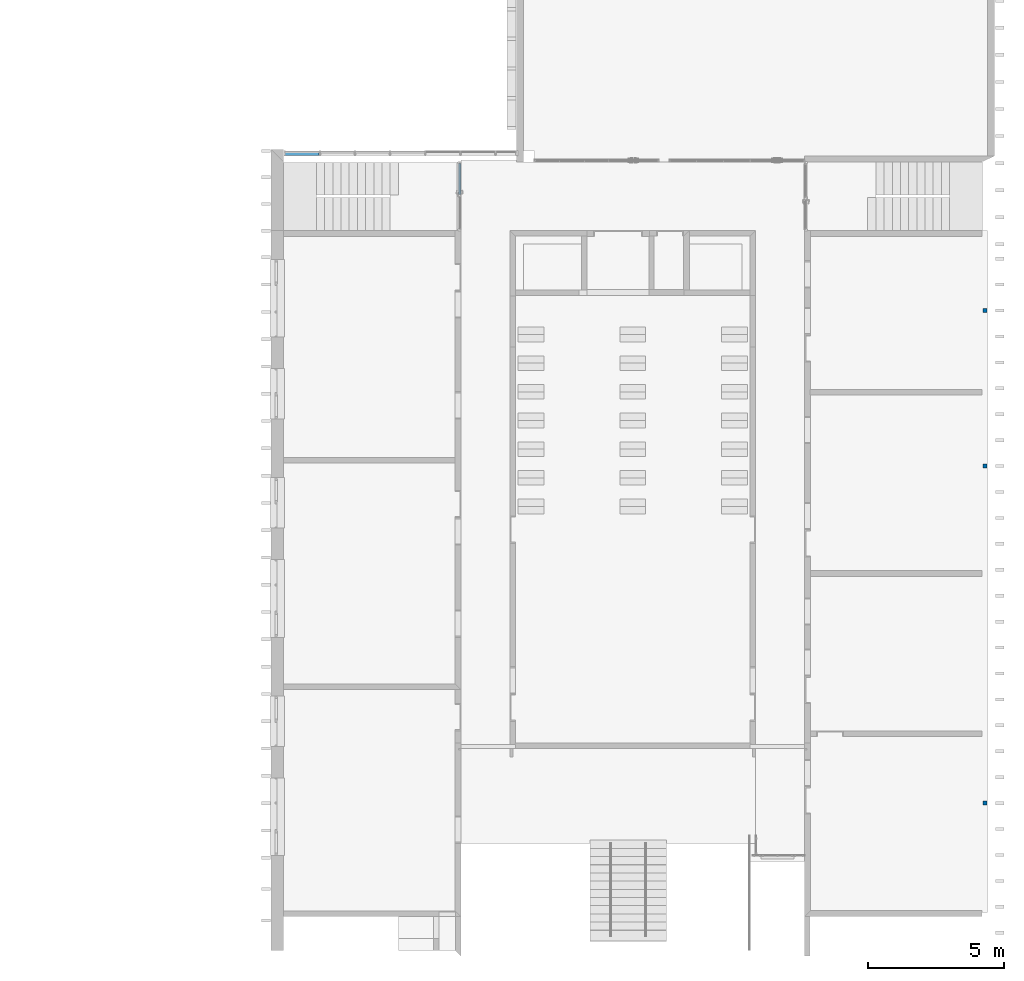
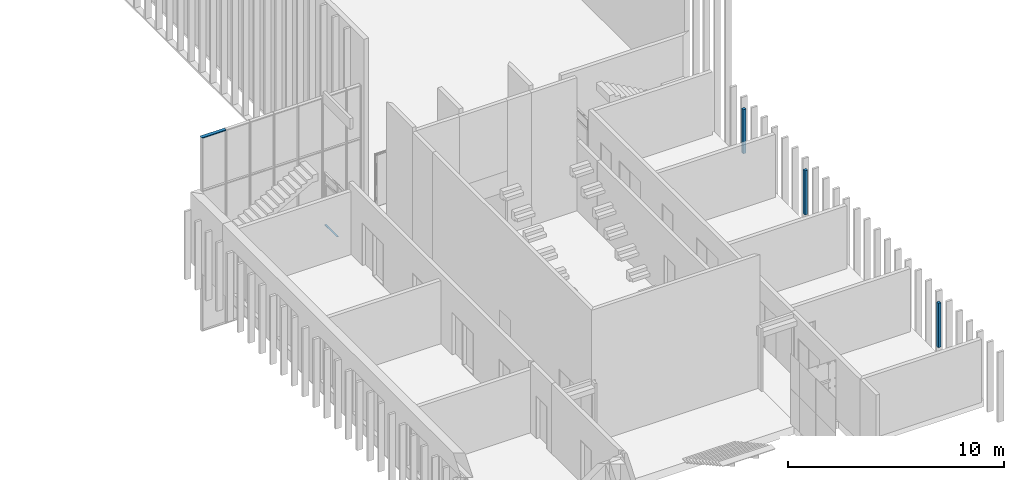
# One storey, part 2 of 62: 3 columns, 2 members, 2 elements without a shape of their own.
"""IFC2X3 building model written with IfcOpenShell, lengths in millimetres."""

from ifc_helpers import new_model, entity, si_unit, converted_unit, derived_unit, money_unit, direction, frame, origin_with_axes, origin_2d_with_axis, place, context, subcontext, project, spatial, polyline, rectangle, outline, extrude, clip, halfspace, material, type_object, element, aggregate, save


model = new_model("IFC2X3")

# Units and contexts
model_context = context("Model", 3, precision=0.01, world=origin_with_axes(), true_north=direction((0.0, 1.0)))
body_context = subcontext(model_context, "Body", "Model", "MODEL_VIEW")
ifc_project = project(units=[si_unit("LENGTHUNIT", "METRE", prefix="MILLI"), si_unit("AREAUNIT", "SQUARE_METRE"), si_unit("VOLUMEUNIT", "CUBIC_METRE"), converted_unit("PLANEANGLEUNIT", "DEGREE", entity("IfcPlaneAngleMeasure", 0.0174532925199), si_unit("PLANEANGLEUNIT", "RADIAN"), dimensions=[0, 0, 0, 0, 0, 0, 0]), si_unit("SOLIDANGLEUNIT", "STERADIAN"), money_unit("EUR"), converted_unit("TIMEUNIT", "Year", entity("IfcTimeMeasure", 31556926.0), si_unit("TIMEUNIT", "SECOND"), dimensions=[0, 0, 1, 0, 0, 0, 0]), si_unit("MASSUNIT", "GRAM", prefix="KILO"), si_unit("THERMODYNAMICTEMPERATUREUNIT", "DEGREE_CELSIUS"), si_unit("LUMINOUSINTENSITYUNIT", "LUMEN"), si_unit("ENERGYUNIT", "JOULE", prefix="MEGA"), derived_unit("THERMALCONDUCTANCEUNIT", [(si_unit("POWERUNIT", "WATT"), 1), (si_unit("LENGTHUNIT", "METRE"), -1), (si_unit("THERMODYNAMICTEMPERATUREUNIT", "KELVIN"), -1)]), derived_unit("SPECIFICHEATCAPACITYUNIT", [(si_unit("ENERGYUNIT", "JOULE"), 1), (si_unit("MASSUNIT", "GRAM", prefix="KILO"), -1), (si_unit("THERMODYNAMICTEMPERATUREUNIT", "KELVIN"), -1)]), derived_unit("MASSDENSITYUNIT", [(si_unit("MASSUNIT", "GRAM", prefix="KILO"), 1), (si_unit("VOLUMEUNIT", "CUBIC_METRE"), -1)])], contexts=[model_context])

# Site, building, storey
site_placement = place(None, origin_with_axes())
site = spatial("IfcSite", under=ifc_project, at=site_placement, Name="Puškini 31, Narva", CompositionType="ELEMENT")
building_placement = place(site_placement, origin_with_axes())
building = spatial("IfcBuilding", under=site, at=building_placement, Name="Narva Riigigümnaasium", CompositionType="ELEMENT")
storey_placement = place(building_placement, frame((0.0, 0.0, 660.0), z_axis=(0.0, 0.0, 1.0), x_axis=(1.0, 0.0, 0.0)))
storey = spatial("IfcBuildingStorey", under=building, at=storey_placement, Name="2.korrus +0.66", CompositionType="ELEMENT", Elevation=660.0)

# Columns
ifc_material_1 = material(Name="ET-06_Teras - Konstruktsioon")
column_type = type_object("IfcColumnType", Name="ET-06_Teras - Konstruktsioon 150 x 150", PredefinedType="COLUMN")
for number, where, z_axis, x_axis, name in (
    (1, (54099.999989, 218350.000001, 600.0), (0.0, 0.0, 1.0), (0.0, 1.0, 0.0), "Post"),
    (2, (54099.999989, 212650.0, 600.0), (0.0, 0.0, 1.0), (0.0, 1.0, 0.0), "Post"),
    (3, (54099.999989, 200300.0, 600.0), (0.0, 0.0, 1.0), (0.0, 1.0, 0.0), "Post"),
):
    element("IfcColumn", number, at=place(storey_placement, frame(where, z_axis=z_axis, x_axis=x_axis)), inside=storey, type_object=column_type, material=ifc_material_1, Name=name, ObjectType="COLUMN", context=body_context, shape_type="SweptSolid", body=[
        extrude(rectangle(XDim=150.0, YDim=150.0, at=origin_2d_with_axis()), origin_with_axes(), (0.0, 0.0, 1.0), 2500.0),
    ])

# Curtain wall, member
curtain_wall_type = type_object("IfcCurtainWallType", Name="Curtain Wall Type", PredefinedType="NOTDEFINED")
curtain_wall_1_placement = place(storey_placement, frame((34855.0128096, 223200.000065, -2.45869393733e-05), z_axis=(0.0, 0.0, 1.0), x_axis=(1.0, 0.0, 0.0)))
curtain_wall_1 = element("IfcCurtainWall", 4, at=curtain_wall_1_placement, inside=storey, type_object=curtain_wall_type, Name="G-SKLF-50")
ifc_material_2 = material(Name="Alumiiniumprofiil")
member_type_1 = type_object("IfcMemberType", Name="20 x 90", PredefinedType="MULLION")
member_1_placement = place(curtain_wall_1_placement, frame((0.00257308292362, 599.999999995, 0.0), z_axis=(-4.28847155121e-06, -0.999999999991, 0.0), x_axis=(0.0, 0.0, 1.0)))
member_1 = element("IfcMember", 5, at=member_1_placement, type_object=member_type_1, material=ifc_material_2, Name="G-SKLF-50-raam", ObjectType="MULLION", context=body_context, shape_type="SweptSolid", body=[
    extrude(outline(polyline([(44.9948538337, -20.0), (44.9948538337, 0.0), (-45.0051461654, 0.0), (-45.0051461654, -20.0), (44.9948538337, -20.0)])), frame((0.0, 0.0, 53.1998070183), z_axis=(0.0, 0.0, 1.0), x_axis=(0.0, 1.0, 0.0)), (0.0, 0.0, 1.0), 1146.80038595),
])
aggregate(curtain_wall_1, [member_1])

curtain_wall_2_placement = place(storey_placement, frame((29287.8078111, 224154.987122, -3960.0), z_axis=(0.0, 0.0, 1.0), x_axis=(1.0, 0.0, 0.0)))
curtain_wall_2 = element("IfcCurtainWall", 6, at=curtain_wall_2_placement, inside=storey, type_object=curtain_wall_type, Name="G-KLF-05")
ifc_material_3 = material(Name="ET-04_Alumiinium")
member_type_2 = type_object("IfcMemberType", Name="Boundary Frame 50 x 176", PredefinedType="MULLION")
member_2_placement = place(curtain_wall_2_placement, frame((-867.767582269, 0.0, 10950.0000373), z_axis=(1.0, 0.0, 0.0), x_axis=(0.0, 0.0, -1.0)))
member_2 = element("IfcMember", 7, at=member_2_placement, type_object=member_type_2, material=ifc_material_3, Name="klaasfassaadi raam", ObjectType="MULLION", context=body_context, shape_type="Clipping", body=[
    clip(extrude(outline(polyline([(29.0, 35.0), (-29.0, 35.0), (-29.0, 50.0), (-46.0, 50.0), (-46.0, 0.0), (130.0, 0.0), (130.0, 50.0), (29.0, 50.0), (29.0, 35.0)])), frame((0.0, 0.0, 0.0), z_axis=(0.0, 0.0, 1.0), x_axis=(0.0, -1.0, 0.0)), (0.0, 0.0, 1.0), 1290.15069146), halfspace(frame((0.0, 0.0, 0.0), z_axis=(-0.707106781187, 0.0, 0.707106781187), x_axis=(0.0, -1.0, 0.0)), True)),
])
aggregate(curtain_wall_2, [member_2])

save(model, "model.ifc")
